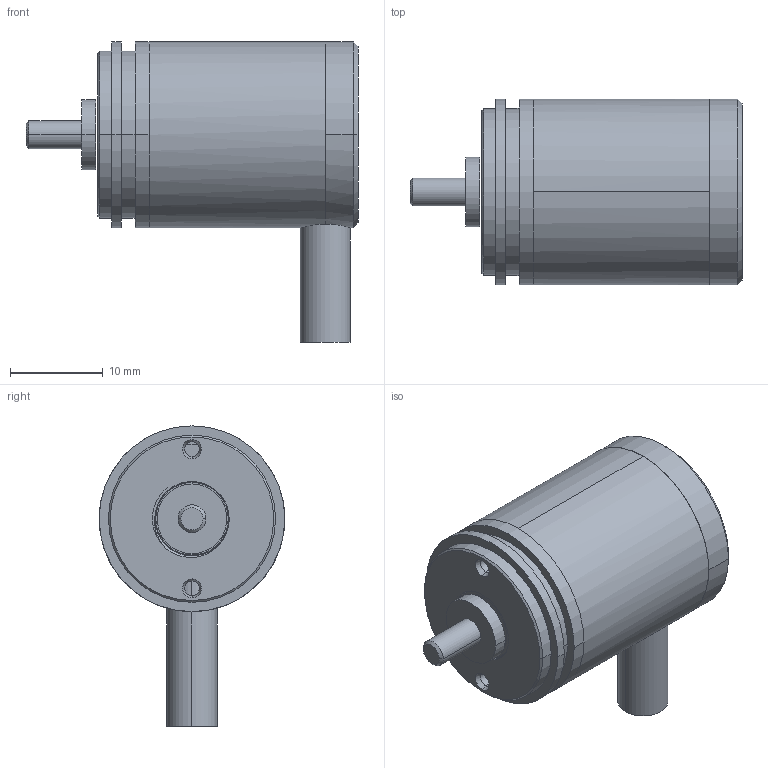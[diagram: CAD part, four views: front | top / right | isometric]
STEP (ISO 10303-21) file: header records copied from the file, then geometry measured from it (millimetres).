
FILE_DESCRIPTION (( 'STEP AP214' ), '1' );
FILE_NAME ('ﾋﾈﾐ-120ﾀ.STEP', '2017-05-23T08:44:44', ( '' ), ( '' ), 'SwSTEP 2.0', 'SolidWorks 2013', '' );
FILE_SCHEMA (( 'AUTOMOTIVE_DESIGN' ));
Length unit declared in the file: millimetre
Products named in the file (1): ﾋﾈﾐ-120ﾀ
Bounding box: 35.75 x 20 x 32.33 mm (x, y, z)
Surface area: 3927.6 mm2 (no closed solid volume)
Topology: 0 solids, 9 shells, 102 faces, 287 edges, 197 vertices
Faces by surface type: cylinder 57, plane 22, cone 14, torus 8, bspline 1
Entity records: 5946 total; most frequent: CARTESIAN_POINT 2334, DIRECTION 523, ORIENTED_EDGE 478, EDGE_CURVE 287, AXIS2_PLACEMENT_3D 220, VERTEX_POINT 197, EDGE_LOOP 119, CIRCLE 118
